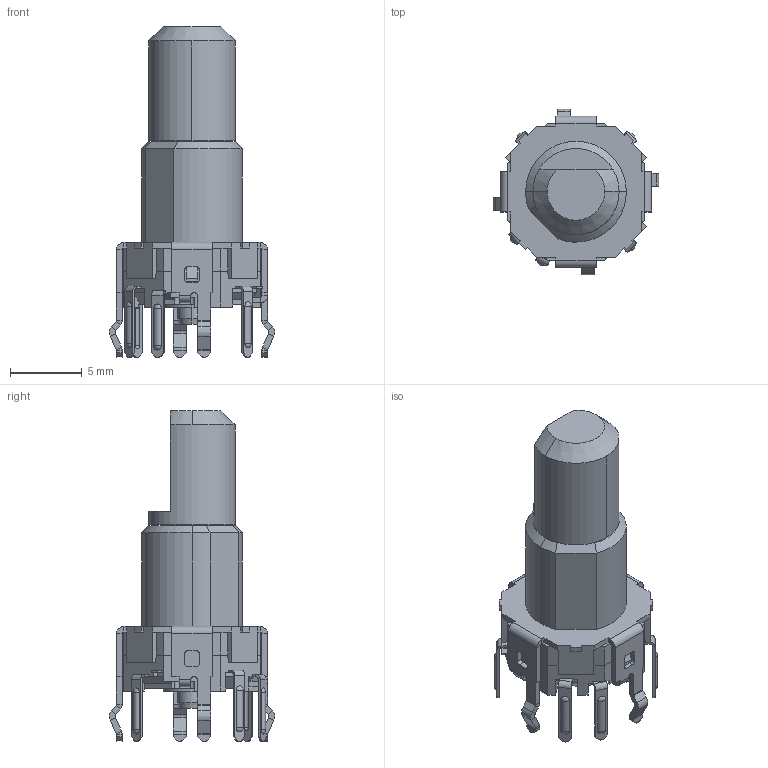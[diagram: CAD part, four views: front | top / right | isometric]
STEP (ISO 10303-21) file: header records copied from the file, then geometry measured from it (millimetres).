
FILE_DESCRIPTION (( 'STEP AP214' ), '1' );
FILE_NAME ('EC09E1520407.STEP', '2017-05-17T04:04:35', ( 'user' ), ( 'Hewlett-Packard Company' ), 'SwSTEP 2.0', 'SolidWorks 2014', '' );
FILE_SCHEMA (( 'AUTOMOTIVE_DESIGN' ));
Length unit declared in the file: millimetre
Products named in the file (1): EC09E1520407
Bounding box: 11.5 x 11.5 x 23 mm (x, y, z)
Volume: 795.6 mm3; surface area: 874.5 mm2
Topology: 1 solids, 1 shells, 660 faces, 1679 edges, 1022 vertices
Faces by surface type: plane 504, cylinder 124, sphere 20, cone 8, bspline 4
Entity records: 26516 total; most frequent: CARTESIAN_POINT 3434, ORIENTED_EDGE 3318, DIRECTION 3217, EDGE_CURVE 1659, VECTOR 1359, LINE 1359, VERTEX_POINT 1012, AXIS2_PLACEMENT_3D 929
